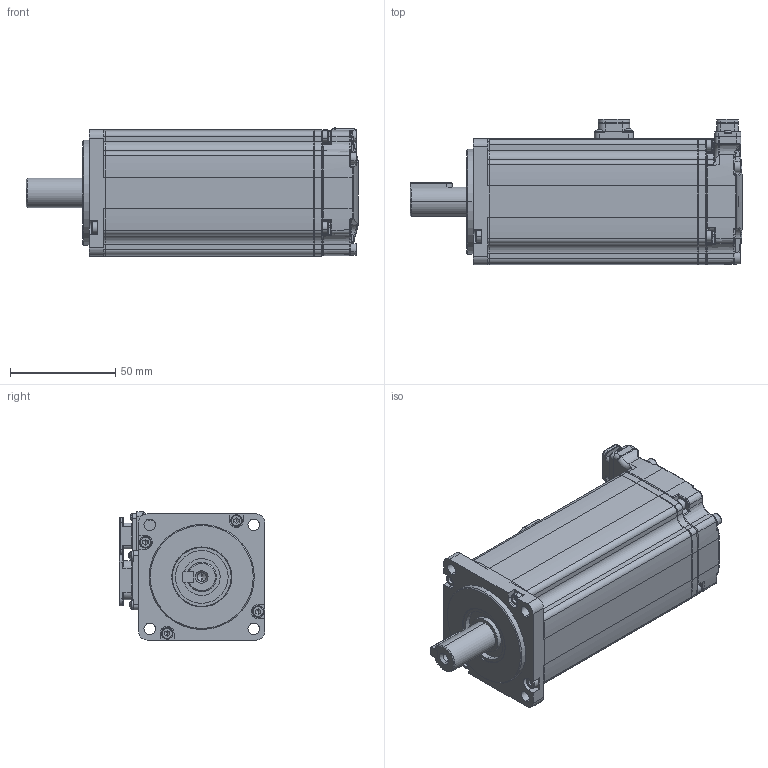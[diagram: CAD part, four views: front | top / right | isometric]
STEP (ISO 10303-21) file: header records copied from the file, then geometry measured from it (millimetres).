
FILE_DESCRIPTION (( 'STEP AP203' ), '1' );
FILE_NAME ('EM3A-04ALA243-N.STEP', '2023-11-16T10:30:55', ( '' ), ( '' ), 'SwSTEP 2.0', 'SolidWorks 2018', '' );
FILE_SCHEMA (( 'CONFIG_CONTROL_DESIGN' ));
Products named in the file (1): EM3A-04ALA243-N
Bounding box: 158 x 69.3 x 60.92 mm (x, y, z)
Volume: 104772.1 mm3; surface area: 81262.2 mm2
Topology: 35 solids, 35 shells, 2809 faces, 7169 edges, 4469 vertices
Faces by surface type: plane 1348, cylinder 802, cone 281, bspline 181, torus 159, sphere 38
Entity records: 94136 total; most frequent: CARTESIAN_POINT 27255, ORIENTED_EDGE 14172, DIRECTION 13691, EDGE_CURVE 7086, AXIS2_PLACEMENT_3D 4866, VERTEX_POINT 4469, LINE 3959, VECTOR 3959
